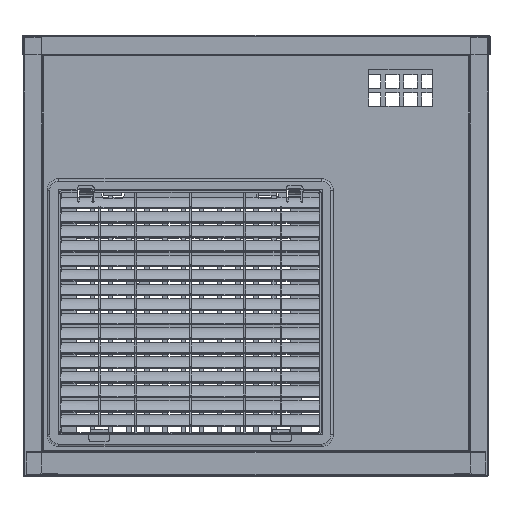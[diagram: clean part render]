
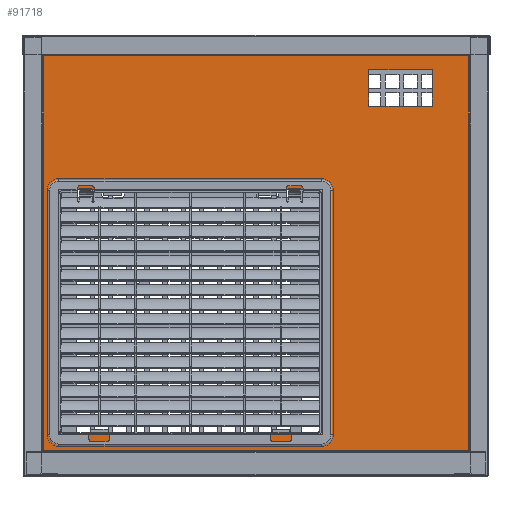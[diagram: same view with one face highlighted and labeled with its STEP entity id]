
A CAD part, front view. The second image highlights one B-rep face of the part: STEP entity #91718.
In plain terms, the highlighted planar face has unit normal (0, -1, 0) as drawn and (1, 0, 0) by its records, which use the part's own axes.
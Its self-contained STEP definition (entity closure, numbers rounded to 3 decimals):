
#22997=ORIENTED_EDGE('',*,*,#38490,.F.);
#22998=ORIENTED_EDGE('',*,*,#38491,.F.);
#22999=ORIENTED_EDGE('',*,*,#38492,.F.);
#23000=ORIENTED_EDGE('',*,*,#38493,.F.);
#23001=ORIENTED_EDGE('',*,*,#38494,.F.);
#23002=ORIENTED_EDGE('',*,*,#38495,.F.);
#23003=ORIENTED_EDGE('',*,*,#38496,.F.);
#23004=ORIENTED_EDGE('',*,*,#38497,.F.);
#23005=ORIENTED_EDGE('',*,*,#38421,.F.);
#23006=ORIENTED_EDGE('',*,*,#38498,.F.);
#23007=ORIENTED_EDGE('',*,*,#38433,.F.);
#23008=ORIENTED_EDGE('',*,*,#38489,.T.);
#23009=ORIENTED_EDGE('',*,*,#38478,.T.);
#23010=ORIENTED_EDGE('',*,*,#38499,.F.);
#23011=ORIENTED_EDGE('',*,*,#38435,.F.);
#23012=ORIENTED_EDGE('',*,*,#38500,.T.);
#23013=ORIENTED_EDGE('',*,*,#38441,.F.);
#23014=ORIENTED_EDGE('',*,*,#38501,.F.);
#23015=ORIENTED_EDGE('',*,*,#38444,.T.);
#23016=ORIENTED_EDGE('',*,*,#38483,.F.);
#23017=ORIENTED_EDGE('',*,*,#38340,.F.);
#23018=ORIENTED_EDGE('',*,*,#38502,.F.);
#23019=ORIENTED_EDGE('',*,*,#38415,.F.);
#23020=ORIENTED_EDGE('',*,*,#38503,.T.);
#38340=EDGE_CURVE('',#47828,#47829,#59490,.F.);
#38415=EDGE_CURVE('',#47883,#47884,#59552,.T.);
#38421=EDGE_CURVE('',#47889,#47887,#59558,.T.);
#38433=EDGE_CURVE('',#47901,#47891,#59566,.F.);
#38435=EDGE_CURVE('',#47903,#47904,#59568,.T.);
#38441=EDGE_CURVE('',#47909,#47907,#59574,.T.);
#38444=EDGE_CURVE('',#47911,#47910,#59576,.F.);
#38478=EDGE_CURVE('',#47932,#47931,#59605,.F.);
#38483=EDGE_CURVE('',#47829,#47910,#59608,.F.);
#38489=EDGE_CURVE('',#47901,#47932,#59612,.T.);
#38490=EDGE_CURVE('',#47938,#47939,#59613,.T.);
#38491=EDGE_CURVE('',#47940,#47938,#59614,.T.);
#38492=EDGE_CURVE('',#47941,#47940,#59615,.T.);
#38493=EDGE_CURVE('',#47939,#47941,#59616,.T.);
#38494=EDGE_CURVE('',#47942,#47943,#59617,.T.);
#38495=EDGE_CURVE('',#47944,#47942,#59618,.T.);
#38496=EDGE_CURVE('',#47945,#47944,#59619,.T.);
#38497=EDGE_CURVE('',#47943,#47945,#59620,.T.);
#38498=EDGE_CURVE('',#47891,#47889,#59621,.T.);
#38499=EDGE_CURVE('',#47904,#47931,#59622,.T.);
#38500=EDGE_CURVE('',#47903,#47907,#59623,.T.);
#38501=EDGE_CURVE('',#47911,#47909,#59624,.T.);
#38502=EDGE_CURVE('',#47884,#47828,#59625,.T.);
#38503=EDGE_CURVE('',#47883,#47887,#59626,.T.);
#47828=VERTEX_POINT('',#142043);
#47829=VERTEX_POINT('',#142045);
#47883=VERTEX_POINT('',#142191);
#47884=VERTEX_POINT('',#142193);
#47887=VERTEX_POINT('',#142200);
#47889=VERTEX_POINT('',#142204);
#47891=VERTEX_POINT('',#142209);
#47901=VERTEX_POINT('',#142229);
#47903=VERTEX_POINT('',#142234);
#47904=VERTEX_POINT('',#142236);
#47907=VERTEX_POINT('',#142243);
#47909=VERTEX_POINT('',#142247);
#47910=VERTEX_POINT('',#142252);
#47911=VERTEX_POINT('',#142254);
#47931=VERTEX_POINT('',#142315);
#47932=VERTEX_POINT('',#142317);
#47938=VERTEX_POINT('',#142341);
#47939=VERTEX_POINT('',#142342);
#47940=VERTEX_POINT('',#142344);
#47941=VERTEX_POINT('',#142346);
#47942=VERTEX_POINT('',#142349);
#47943=VERTEX_POINT('',#142350);
#47944=VERTEX_POINT('',#142352);
#47945=VERTEX_POINT('',#142354);
#59490=LINE('',#142044,#70811);
#59552=LINE('',#142192,#70873);
#59558=LINE('',#142205,#70879);
#59566=LINE('',#142230,#70887);
#59568=LINE('',#142235,#70889);
#59574=LINE('',#142248,#70895);
#59576=LINE('',#142253,#70897);
#59605=LINE('',#142316,#70926);
#59608=LINE('',#142326,#70929);
#59612=LINE('',#142338,#70933);
#59613=LINE('',#142340,#70934);
#59614=LINE('',#142343,#70935);
#59615=LINE('',#142345,#70936);
#59616=LINE('',#142347,#70937);
#59617=LINE('',#142348,#70938);
#59618=LINE('',#142351,#70939);
#59619=LINE('',#142353,#70940);
#59620=LINE('',#142355,#70941);
#59621=LINE('',#142356,#70942);
#59622=LINE('',#142357,#70943);
#59623=LINE('',#142358,#70944);
#59624=LINE('',#142359,#70945);
#59625=LINE('',#142360,#70946);
#59626=LINE('',#142361,#70947);
#70811=VECTOR('',#115725,1000.);
#70873=VECTOR('',#115849,1000.);
#70879=VECTOR('',#115857,1000.);
#70887=VECTOR('',#115875,1000.);
#70889=VECTOR('',#115879,1000.);
#70895=VECTOR('',#115887,1000.);
#70897=VECTOR('',#115893,1000.);
#70926=VECTOR('',#115948,1000.);
#70929=VECTOR('',#115957,1000.);
#70933=VECTOR('',#115973,1000.);
#70934=VECTOR('',#115976,1000.);
#70935=VECTOR('',#115977,1000.);
#70936=VECTOR('',#115978,1000.);
#70937=VECTOR('',#115979,1000.);
#70938=VECTOR('',#115980,1000.);
#70939=VECTOR('',#115981,1000.);
#70940=VECTOR('',#115982,1000.);
#70941=VECTOR('',#115983,1000.);
#70942=VECTOR('',#115984,1000.);
#70943=VECTOR('',#115985,1000.);
#70944=VECTOR('',#115986,1000.);
#70945=VECTOR('',#115987,1000.);
#70946=VECTOR('',#115988,1000.);
#70947=VECTOR('',#115989,1000.);
#77444=EDGE_LOOP('',(#22997,#22998,#22999,#23000));
#77445=EDGE_LOOP('',(#23001,#23002,#23003,#23004));
#77446=EDGE_LOOP('',(#23005,#23006,#23007,#23008,#23009,#23010,#23011,#23012,
#23013,#23014,#23015,#23016,#23017,#23018,#23019,#23020));
#83597=FACE_BOUND('',#77444,.T.);
#83598=FACE_BOUND('',#77445,.T.);
#83599=FACE_BOUND('',#77446,.T.);
#87841=PLANE('',#96408);
#91718=ADVANCED_FACE('',(#83597,#83598,#83599),#87841,.F.);
#96408=AXIS2_PLACEMENT_3D('',#142339,#115974,#115975);
#115725=DIRECTION('',(0.,0.,1.));
#115849=DIRECTION('',(0.,0.,-1.));
#115857=DIRECTION('',(0.,0.,-1.));
#115875=DIRECTION('',(0.,0.,1.));
#115879=DIRECTION('',(0.,0.,1.));
#115887=DIRECTION('',(0.,0.,1.));
#115893=DIRECTION('',(0.,0.,1.));
#115948=DIRECTION('',(0.,0.,1.));
#115957=DIRECTION('',(0.,1.,0.));
#115973=DIRECTION('',(0.,-1.,0.));
#115974=DIRECTION('',(-1.,0.,0.));
#115975=DIRECTION('',(0.,0.,1.));
#115976=DIRECTION('',(0.,1.,0.));
#115977=DIRECTION('',(0.,0.,-1.));
#115978=DIRECTION('',(0.,-1.,0.));
#115979=DIRECTION('',(0.,0.,1.));
#115980=DIRECTION('',(0.,1.,0.));
#115981=DIRECTION('',(0.,0.,-1.));
#115982=DIRECTION('',(0.,-1.,0.));
#115983=DIRECTION('',(0.,0.,1.));
#115984=DIRECTION('',(0.,-1.,0.));
#115985=DIRECTION('',(0.,-1.,0.));
#115986=DIRECTION('',(0.,0.,-1.));
#115987=DIRECTION('',(0.,1.,0.));
#115988=DIRECTION('',(0.,1.,0.));
#115989=DIRECTION('',(0.,0.,1.));
#142043=CARTESIAN_POINT('',(20.,234.2,-217.15));
#142044=CARTESIAN_POINT('',(20.,234.2,217.25));
#142045=CARTESIAN_POINT('',(20.,234.2,-217.248));
#142191=CARTESIAN_POINT('',(20.,234.198,-217.148));
#142192=CARTESIAN_POINT('',(20.,234.198,217.15));
#142193=CARTESIAN_POINT('',(20.,234.198,-217.15));
#142200=CARTESIAN_POINT('',(20.,234.198,217.148));
#142204=CARTESIAN_POINT('',(20.,234.198,217.15));
#142205=CARTESIAN_POINT('',(20.,234.198,217.15));
#142209=CARTESIAN_POINT('',(20.,234.2,217.15));
#142229=CARTESIAN_POINT('',(20.,234.2,217.248));
#142230=CARTESIAN_POINT('',(20.,234.2,217.25));
#142234=CARTESIAN_POINT('',(20.,-234.198,217.148));
#142235=CARTESIAN_POINT('',(20.,-234.198,-217.15));
#142236=CARTESIAN_POINT('',(20.,-234.198,217.15));
#142243=CARTESIAN_POINT('',(20.,-234.198,-217.148));
#142247=CARTESIAN_POINT('',(20.,-234.198,-217.15));
#142248=CARTESIAN_POINT('',(20.,-234.198,-217.15));
#142252=CARTESIAN_POINT('',(20.,-234.2,-217.248));
#142253=CARTESIAN_POINT('',(20.,-234.2,217.25));
#142254=CARTESIAN_POINT('',(20.,-234.2,-217.15));
#142315=CARTESIAN_POINT('',(20.,-234.2,217.15));
#142316=CARTESIAN_POINT('',(20.,-234.2,217.25));
#142317=CARTESIAN_POINT('',(20.,-234.2,217.248));
#142326=CARTESIAN_POINT('',(20.,234.2,-217.248));
#142338=CARTESIAN_POINT('',(20.,234.2,217.248));
#142339=CARTESIAN_POINT('',(20.,234.2,217.25));
#142340=CARTESIAN_POINT('',(20.,-216.9,-199.95));
#142341=CARTESIAN_POINT('',(20.,-216.9,-199.95));
#142342=CARTESIAN_POINT('',(20.,73.1,-199.95));
#142343=CARTESIAN_POINT('',(20.,-216.9,70.05));
#142344=CARTESIAN_POINT('',(20.,-216.9,70.05));
#142345=CARTESIAN_POINT('',(20.,73.1,70.05));
#142346=CARTESIAN_POINT('',(20.,73.1,70.05));
#142347=CARTESIAN_POINT('',(20.,73.1,-199.95));
#142348=CARTESIAN_POINT('',(20.,124.2,161.95));
#142349=CARTESIAN_POINT('',(20.,124.2,161.95));
#142350=CARTESIAN_POINT('',(20.,194.2,161.95));
#142351=CARTESIAN_POINT('',(20.,124.2,201.95));
#142352=CARTESIAN_POINT('',(20.,124.2,201.95));
#142353=CARTESIAN_POINT('',(20.,194.2,201.95));
#142354=CARTESIAN_POINT('',(20.,194.2,201.95));
#142355=CARTESIAN_POINT('',(20.,194.2,161.95));
#142356=CARTESIAN_POINT('',(20.,234.198,217.15));
#142357=CARTESIAN_POINT('',(20.,-234.2,217.15));
#142358=CARTESIAN_POINT('',(20.,-234.198,217.148));
#142359=CARTESIAN_POINT('',(20.,-234.198,-217.15));
#142360=CARTESIAN_POINT('',(20.,234.2,-217.15));
#142361=CARTESIAN_POINT('',(20.,234.198,-217.148));
